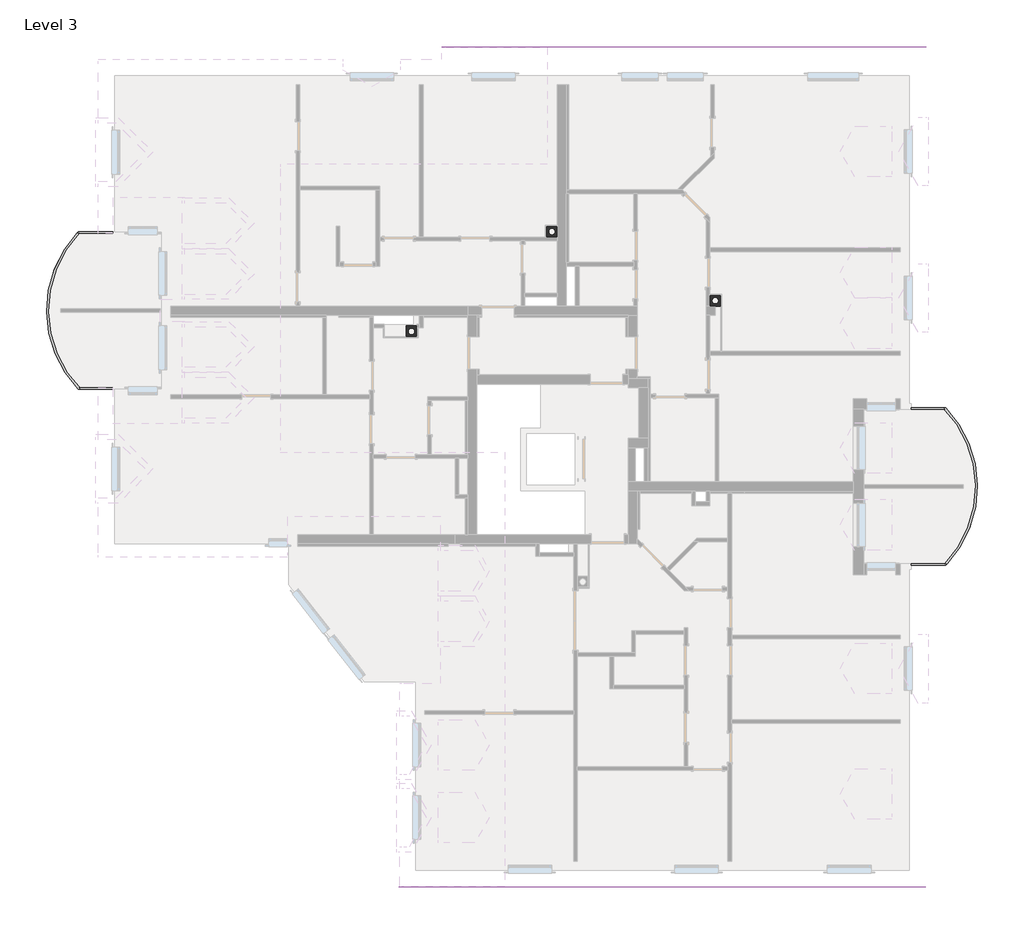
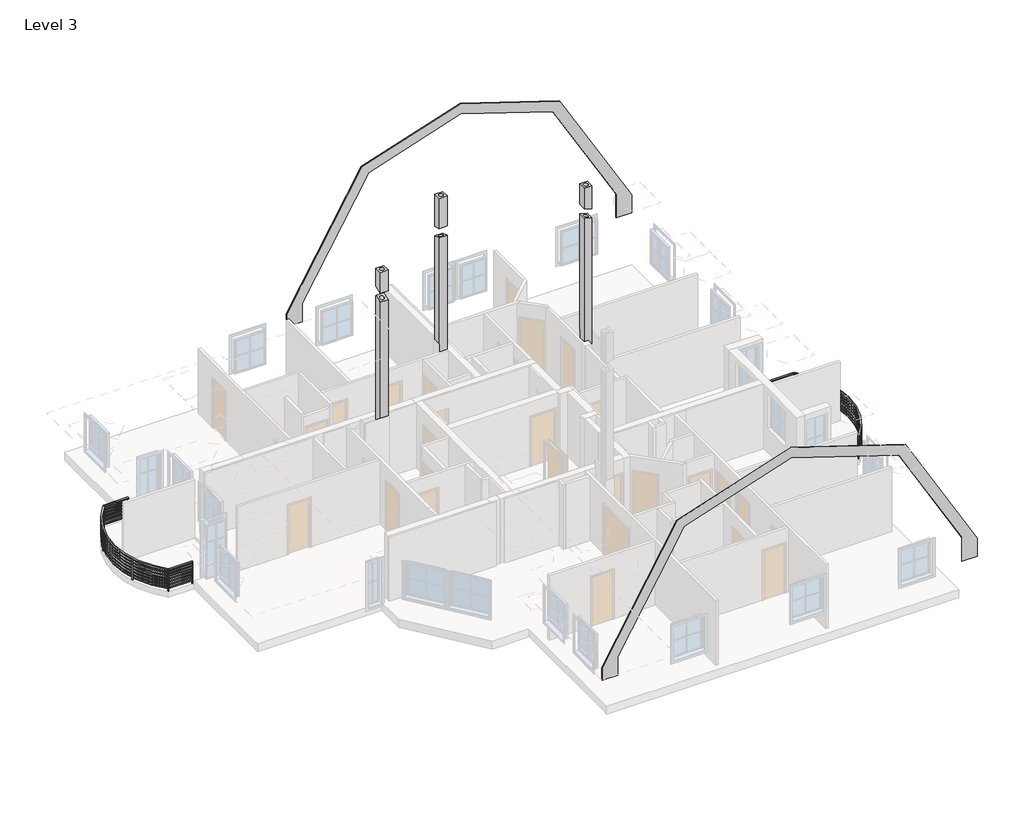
# One storey, part 5 of 5: 3 columns, 3 railings, 2 proxies.
"""IFC4 building model written with IfcOpenShell, lengths in millimetres."""

from ifc_helpers import new_model, si_unit, frame, origin, place, context, project, spatial, polyline, circle_curve, ellipse_curve, transform, mapped, element, save
from ifc_brep_helpers import plane_surface, revolved_surface, advanced_brep
from components import first_first_963d72c4, first2_first2_621e7f1b, railing_900mm_pipe_71d0ca38, railing_900mm_pipe_14a70984, railing_900mm_pipe_290ed59c

model = new_model("IFC4")

# Units and contexts
model_context = context("Model", 3, world=origin())
ifc_project = project(units=[si_unit("LENGTHUNIT", "METRE", prefix="MILLI")], contexts=[model_context])

# Site, building, storey
site = spatial("IfcSite", under=ifc_project)
building = spatial("IfcBuilding", under=site)
storey = spatial("IfcBuildingStorey", under=building, Name="Level 3", Elevation=8850.0)

# Proxies
placement = place(None, origin())
first_first_shape = first_first_963d72c4(model_context)
element("IfcBuildingElementProxy", 1, Name="first : first", ObjectType="first : first", at=placement, inside=storey, context=model_context, shape_type="MappedRepresentation", body=[
    mapped(first_first_shape, transform((0.0, 0.0, 0.0), x_axis=(1.0, 0.0, 0.0), y_axis=(0.0, 1.0, 0.0), z_axis=(0.0, 0.0, 1.0))),
])
first2_first2_shape = first2_first2_621e7f1b(model_context)
element("IfcBuildingElementProxy", 2, Name="first2 : first2", ObjectType="first2 : first2", at=placement, inside=storey, context=model_context, shape_type="MappedRepresentation", body=[
    mapped(first2_first2_shape, transform((0.0, 0.0, 0.0), x_axis=(1.0, 0.0, 0.0), y_axis=(0.0, 1.0, 0.0), z_axis=(0.0, 0.0, 1.0))),
])

# Columns
element("IfcColumn", 3, ObjectType="AT Kamin : 300/300/160", at=placement, inside=storey, context=model_context, shape_type="AdvancedBrep", body=[
    advanced_brep(
    [(-4257.1962165, 3917.6290541, 17750.0), (-4557.1962165, 3917.6290541, 17750.0), (-4557.1962165, 3617.6290541, 17750.0), (-4257.1962165, 3617.6290541, 17750.0), (-4487.1962165, 3767.6290541, 17750.0), (-4327.1962165, 3767.6290541, 17750.0), (-4257.1962165, 3917.6290541, 17005.3753871), (-4541.2600407, 3917.6290541, 17005.3753871), (-4557.1962165, 3917.6290541, 17000.1974097), (-4557.1962165, 3901.6928783, 17000.1974097), (-4557.1962165, 3617.6290541, 16907.8994783), (-4257.1962165, 3617.6290541, 16907.8994783), (-4487.1962165, 3767.6290541, 16956.6374327), (-4327.1962165, 3767.6290541, 16956.6374327)],
    [
        (0, 1),
        (1, 2),
        (2, 3),
        (3, 0),
        (4, 5, circle_curve(frame((-4407.1962165, 3767.6290541, 17750.0), z_axis=(0.0, 0.0, -1.0), x_axis=(1.0, 0.0, 0.0)), 80.0)),
        (5, 4, circle_curve(frame((-4407.1962165, 3767.6290541, 17750.0), z_axis=(0.0, 0.0, -1.0), x_axis=(1.0, 0.0, 0.0)), 80.0)),
        (0, 6),
        (6, 7),
        (7, 8),
        (8, 1),
        (8, 9),
        (9, 10),
        (10, 2),
        (10, 11),
        (11, 3),
        (11, 6),
        (4, 12),
        (12, 13, ellipse_curve(frame((-4407.1962165, 3767.6290541, 16956.6374327), z_axis=(0.0, 0.30901699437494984, -0.9510565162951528), x_axis=(0.0, -0.9510565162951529, -0.30901699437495)), 84.1169779, 80.0)),
        (13, 5),
        (13, 12, ellipse_curve(frame((-4407.1962165, 3767.6290541, 16956.6374327), z_axis=(0.0, 0.30901699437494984, -0.9510565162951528), x_axis=(0.0, -0.9510565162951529, -0.30901699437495)), 84.1169779, 80.0)),
        (7, 9),
    ],
    [
        plane_surface(frame((-4557.1962165, 3917.6290541, 17750.0), z_axis=(0.0, 0.0, 1.0), x_axis=(-1.0, 0.0, 0.0))),
        plane_surface(frame((-4257.1962165, 3917.6290541, 17750.0), z_axis=(0.0, 1.0, 0.0), x_axis=(0.0, 0.0, -1.0))),
        plane_surface(frame((-4557.1962165, 3917.6290541, 17750.0), z_axis=(-1.0, 0.0, 0.0), x_axis=(0.0, 0.0, -1.0))),
        plane_surface(frame((-4557.1962165, 3617.6290541, 17750.0), z_axis=(0.0, -1.0, 0.0), x_axis=(0.0, 0.0, -1.0))),
        plane_surface(frame((-4257.1962165, 3617.6290541, 17750.0), z_axis=(1.0, 0.0, 0.0), x_axis=(0.0, 0.0, -1.0))),
        revolved_surface(polyline([(-4327.1962165, 3767.6290541, 16930.643857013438), (-4327.1962165, 3767.6290541, 17750.0)]), (-4407.1962165, 3767.6290541, 8850.0), (0.0, 0.0, -1.0)),
        plane_surface(frame((-8021.8499172, 8372.0175181, 15874.4631818), z_axis=(0.30901699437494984, 0.0, -0.9510565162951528), x_axis=(0.0, -1.0, 0.0))),
        plane_surface(frame((-8021.8499172, 437.0391776, 15874.4631818), z_axis=(0.0, 0.30901699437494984, -0.9510565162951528), x_axis=(1.0, 0.0, 0.0))),
    ],
    [
        (0, [[1, 2, 3, 4], [5, 6]]),
        (1, [[-1, 7, 8, 9, 10]]),
        (2, [[-2, -10, 11, 12, 13]]),
        (3, [[-3, -13, 14, 15]]),
        (4, [[-4, -15, 16, -7]]),
        (5, [[-5, 17, 18, 19]]),
        (5, [[-6, -19, 20, -17]]),
        (6, [[21, -11, -9]]),
        (7, [[-21, -8, -16, -14, -12], [-18, -20]]),
    ],
),
    advanced_brep(
    [(-4257.1962165, 3917.6290541, 8850.0), (-4257.1962165, 3617.6290541, 8850.0), (-4557.1962165, 3617.6290541, 8850.0), (-4557.1962165, 3917.6290541, 8850.0), (-4487.1962165, 3767.6290541, 8850.0), (-4327.1962165, 3767.6290541, 8850.0), (-4557.1962165, 3901.6928783, 16621.671009), (-4541.2600407, 3917.6290541, 16626.8489864), (-4557.1962165, 3917.6290541, 16621.671009), (-4557.1962165, 3617.6290541, 16529.3730775), (-4257.1962165, 3617.6290541, 16529.3730775), (-4257.1962165, 3917.6290541, 16626.8489864), (-4487.1962165, 3767.6290541, 16578.111032), (-4327.1962165, 3767.6290541, 16578.111032)],
    [
        (0, 1),
        (1, 2),
        (2, 3),
        (3, 0),
        (4, 5, circle_curve(frame((-4407.1962165, 3767.6290541, 8850.0), z_axis=(0.0, 0.0, 1.0), x_axis=(1.0, 0.0, 0.0)), 80.0)),
        (5, 4, circle_curve(frame((-4407.1962165, 3767.6290541, 8850.0), z_axis=(0.0, 0.0, 1.0), x_axis=(1.0, 0.0, 0.0)), 80.0)),
        (6, 7),
        (7, 8),
        (8, 6),
        (6, 9),
        (9, 10),
        (10, 11),
        (11, 7),
        (12, 13, ellipse_curve(frame((-4407.1962165, 3767.6290541, 16578.111032), z_axis=(0.0, 0.30901699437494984, -0.9510565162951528), x_axis=(0.0, -0.9510565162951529, -0.30901699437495)), 84.1169779, 80.0)),
        (13, 12, ellipse_curve(frame((-4407.1962165, 3767.6290541, 16578.111032), z_axis=(0.0, 0.30901699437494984, -0.9510565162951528), x_axis=(0.0, -0.9510565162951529, -0.30901699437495)), 84.1169779, 80.0)),
        (3, 8),
        (11, 0),
        (2, 9),
        (1, 10),
        (5, 13),
        (12, 4),
    ],
    [
        plane_surface(frame((-4557.1962165, 3917.6290541, 8850.0), z_axis=(0.0, 0.0, -1.0), x_axis=(1.0, 0.0, 0.0))),
        plane_surface(frame((-8021.8499172, 8372.0175181, 15495.936781), z_axis=(-0.30901699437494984, 0.0, 0.9510565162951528), x_axis=(0.0, -1.0, 0.0))),
        plane_surface(frame((-8021.8499172, 437.0391776, 15495.936781), z_axis=(0.0, -0.30901699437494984, 0.9510565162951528), x_axis=(1.0, 0.0, 0.0))),
        plane_surface(frame((-4257.1962165, 3917.6290541, 17750.0), z_axis=(0.0, 1.0, 0.0), x_axis=(0.0, 0.0, -1.0))),
        plane_surface(frame((-4557.1962165, 3917.6290541, 17750.0), z_axis=(-1.0, 0.0, 0.0), x_axis=(0.0, 0.0, -1.0))),
        plane_surface(frame((-4557.1962165, 3617.6290541, 17750.0), z_axis=(0.0, -1.0, 0.0), x_axis=(0.0, 0.0, -1.0))),
        plane_surface(frame((-4257.1962165, 3617.6290541, 17750.0), z_axis=(1.0, 0.0, 0.0), x_axis=(0.0, 0.0, -1.0))),
        revolved_surface(polyline([(-4327.1962165, 3767.6290541, 8850.0), (-4327.1962165, 3767.6290541, 16604.104607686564)]), (-4407.1962165, 3767.6290541, 8850.0), (0.0, 0.0, -1.0)),
    ],
    [
        (0, [[1, 2, 3, 4], [5, 6]]),
        (1, [[7, 8, 9]]),
        (2, [[-7, 10, 11, 12, 13], [14, 15]]),
        (3, [[-4, 16, -8, -13, 17]]),
        (4, [[-3, 18, -10, -9, -16]]),
        (5, [[-2, 19, -11, -18]]),
        (6, [[-1, -17, -12, -19]]),
        (7, [[-6, 20, -14, 21]]),
        (7, [[-5, -21, -15, -20]]),
    ],
),
])
element("IfcColumn", 4, ObjectType="AT Kamin : 300/300/160", at=placement, inside=storey, context=model_context, shape_type="AdvancedBrep", body=[
    advanced_brep(
    [(4112.8037835, 4767.6290541, 17750.0), (3812.8037835, 4767.6290541, 17750.0), (3812.8037835, 4467.6290541, 17750.0), (4112.8037835, 4467.6290541, 17750.0), (3882.8037835, 4617.6290541, 17750.0), (4042.8037835, 4617.6290541, 17750.0), (4112.8037835, 4767.6290541, 16807.8848523), (3812.8037835, 4767.6290541, 16905.3607612), (3812.8037835, 4467.6290541, 16905.3607612), (4112.8037835, 4467.6290541, 16807.8848523), (3882.8037835, 4617.6290541, 16882.6163825), (4042.8037835, 4617.6290541, 16830.6292311)],
    [
        (0, 1),
        (1, 2),
        (2, 3),
        (3, 0),
        (4, 5, circle_curve(frame((3962.8037835, 4617.6290541, 17750.0), z_axis=(0.0, 0.0, -1.0), x_axis=(1.0, 0.0, 0.0)), 80.0)),
        (5, 4, circle_curve(frame((3962.8037835, 4617.6290541, 17750.0), z_axis=(0.0, 0.0, -1.0), x_axis=(1.0, 0.0, 0.0)), 80.0)),
        (0, 6),
        (6, 7),
        (7, 1),
        (7, 8),
        (8, 2),
        (8, 9),
        (9, 3),
        (9, 6),
        (4, 10),
        (10, 11, ellipse_curve(frame((3962.8037835, 4617.6290541, 16856.6228068), z_axis=(-0.30901699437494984, 0.0, -0.9510565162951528), x_axis=(0.9510565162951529, 0.0, -0.30901699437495)), 84.1169779, 80.0)),
        (11, 5),
        (11, 10, ellipse_curve(frame((3962.8037835, 4617.6290541, 16856.6228068), z_axis=(-0.30901699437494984, 0.0, -0.9510565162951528), x_axis=(0.9510565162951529, 0.0, -0.30901699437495)), 84.1169779, 80.0)),
    ],
    [
        plane_surface(frame((3812.8037835, 4767.6290541, 17750.0), z_axis=(0.0, 0.0, 1.0), x_axis=(-1.0, 0.0, 0.0))),
        plane_surface(frame((4112.8037835, 4767.6290541, 17750.0), z_axis=(0.0, 1.0, 0.0), x_axis=(0.0, 0.0, -1.0))),
        plane_surface(frame((3812.8037835, 4767.6290541, 17750.0), z_axis=(-1.0, 0.0, 0.0), x_axis=(0.0, 0.0, -1.0))),
        plane_surface(frame((3812.8037835, 4467.6290541, 17750.0), z_axis=(0.0, -1.0, 0.0), x_axis=(0.0, 0.0, -1.0))),
        plane_surface(frame((4112.8037835, 4467.6290541, 17750.0), z_axis=(1.0, 0.0, 0.0), x_axis=(0.0, 0.0, -1.0))),
        revolved_surface(polyline([(4042.8037835, 4617.6290541, 16830.6292311), (4042.8037835, 4617.6290541, 17750.0)]), (3962.8037835, 4617.6290541, 8850.0), (0.0, 0.0, -1.0)),
        plane_surface(frame((6985.5802922, -11532.3709459, 15874.4631818), z_axis=(-0.30901699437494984, 0.0, -0.9510565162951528), x_axis=(0.0, 1.0, 0.0))),
    ],
    [
        (0, [[1, 2, 3, 4], [5, 6]]),
        (1, [[-1, 7, 8, 9]]),
        (2, [[-2, -9, 10, 11]]),
        (3, [[-3, -11, 12, 13]]),
        (4, [[-4, -13, 14, -7]]),
        (5, [[-5, 15, 16, 17]]),
        (5, [[-6, -17, 18, -15]]),
        (6, [[-8, -14, -12, -10], [-16, -18]]),
    ],
),
    advanced_brep(
    [(4112.8037835, 4767.6290541, 8850.0), (4112.8037835, 4467.6290541, 8850.0), (3812.8037835, 4467.6290541, 8850.0), (3812.8037835, 4767.6290541, 8850.0), (3882.8037835, 4617.6290541, 8850.0), (4042.8037835, 4617.6290541, 8850.0), (4112.8037835, 4767.6290541, 16429.3584516), (3812.8037835, 4767.6290541, 16526.8343605), (3812.8037835, 4467.6290541, 16526.8343605), (4112.8037835, 4467.6290541, 16429.3584516), (3882.8037835, 4617.6290541, 16504.0899817), (4042.8037835, 4617.6290541, 16452.1028303)],
    [
        (0, 1),
        (1, 2),
        (2, 3),
        (3, 0),
        (4, 5, circle_curve(frame((3962.8037835, 4617.6290541, 8850.0), z_axis=(0.0, 0.0, 1.0), x_axis=(1.0, 0.0, 0.0)), 80.0)),
        (5, 4, circle_curve(frame((3962.8037835, 4617.6290541, 8850.0), z_axis=(0.0, 0.0, 1.0), x_axis=(1.0, 0.0, 0.0)), 80.0)),
        (6, 7),
        (7, 8),
        (8, 9),
        (9, 6),
        (10, 11, ellipse_curve(frame((3962.8037835, 4617.6290541, 16478.096406), z_axis=(-0.30901699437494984, 0.0, -0.9510565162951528), x_axis=(0.9510565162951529, 0.0, -0.30901699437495)), 84.1169779, 80.0)),
        (11, 10, ellipse_curve(frame((3962.8037835, 4617.6290541, 16478.096406), z_axis=(-0.30901699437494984, 0.0, -0.9510565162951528), x_axis=(0.9510565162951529, 0.0, -0.30901699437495)), 84.1169779, 80.0)),
        (3, 7),
        (6, 0),
        (2, 8),
        (1, 9),
        (5, 11),
        (10, 4),
    ],
    [
        plane_surface(frame((3812.8037835, 4767.6290541, 8850.0), z_axis=(0.0, 0.0, -1.0), x_axis=(1.0, 0.0, 0.0))),
        plane_surface(frame((6985.5802922, -11532.3709459, 15495.936781), z_axis=(0.30901699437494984, 0.0, 0.9510565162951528), x_axis=(0.0, 1.0, 0.0))),
        plane_surface(frame((4112.8037835, 4767.6290541, 17750.0), z_axis=(0.0, 1.0, 0.0), x_axis=(0.0, 0.0, -1.0))),
        plane_surface(frame((3812.8037835, 4767.6290541, 17750.0), z_axis=(-1.0, 0.0, 0.0), x_axis=(0.0, 0.0, -1.0))),
        plane_surface(frame((3812.8037835, 4467.6290541, 17750.0), z_axis=(0.0, -1.0, 0.0), x_axis=(0.0, 0.0, -1.0))),
        plane_surface(frame((4112.8037835, 4467.6290541, 17750.0), z_axis=(1.0, 0.0, 0.0), x_axis=(0.0, 0.0, -1.0))),
        revolved_surface(polyline([(4042.8037835, 4617.6290541, 8850.0), (4042.8037835, 4617.6290541, 16504.0899817)]), (3962.8037835, 4617.6290541, 8850.0), (0.0, 0.0, -1.0)),
    ],
    [
        (0, [[1, 2, 3, 4], [5, 6]]),
        (1, [[7, 8, 9, 10], [11, 12]]),
        (2, [[-4, 13, -7, 14]]),
        (3, [[-3, 15, -8, -13]]),
        (4, [[-2, 16, -9, -15]]),
        (5, [[-1, -14, -10, -16]]),
        (6, [[-6, 17, -11, 18]]),
        (6, [[-5, -18, -12, -17]]),
    ],
),
])
element("IfcColumn", 5, ObjectType="AT Kamin : 300/300/160", at=placement, inside=storey, context=model_context, shape_type="AdvancedBrep", body=[
    advanced_brep(
    [(-387.1962165, 6667.6290541, 17750.0), (-687.1962165, 6667.6290541, 17750.0), (-687.1962165, 6367.6290541, 17750.0), (-387.1962165, 6367.6290541, 17750.0), (-617.1962165, 6517.6290541, 17750.0), (-457.1962165, 6517.6290541, 17750.0), (-387.1962165, 6667.6290541, 16428.2525638), (-687.1962165, 6667.6290541, 16428.2525638), (-687.1962165, 6367.6290541, 16525.7284726), (-387.1962165, 6367.6290541, 16525.7284726), (-617.1962165, 6517.6290541, 16476.9905182), (-457.1962165, 6517.6290541, 16476.9905182)],
    [
        (0, 1),
        (1, 2),
        (2, 3),
        (3, 0),
        (4, 5, circle_curve(frame((-537.1962165, 6517.6290541, 17750.0), z_axis=(0.0, 0.0, -1.0), x_axis=(1.0, 0.0, 0.0)), 80.0)),
        (5, 4, circle_curve(frame((-537.1962165, 6517.6290541, 17750.0), z_axis=(0.0, 0.0, -1.0), x_axis=(1.0, 0.0, 0.0)), 80.0)),
        (0, 6),
        (6, 7),
        (7, 1),
        (7, 8),
        (8, 2),
        (8, 9),
        (9, 3),
        (9, 6),
        (4, 10),
        (10, 11, ellipse_curve(frame((-537.1962165, 6517.6290541, 16476.9905182), z_axis=(0.0, -0.30901699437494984, -0.9510565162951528), x_axis=(0.0, 0.9510565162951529, -0.30901699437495)), 84.1169779, 80.0)),
        (11, 5),
        (11, 10, ellipse_curve(frame((-537.1962165, 6517.6290541, 16476.9905182), z_axis=(0.0, -0.30901699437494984, -0.9510565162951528), x_axis=(0.0, 0.9510565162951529, -0.30901699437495)), 84.1169779, 80.0)),
    ],
    [
        plane_surface(frame((-687.1962165, 6667.6290541, 17750.0), z_axis=(0.0, 0.0, 1.0), x_axis=(-1.0, 0.0, 0.0))),
        plane_surface(frame((-387.1962165, 6667.6290541, 17750.0), z_axis=(0.0, 1.0, 0.0), x_axis=(0.0, 0.0, -1.0))),
        plane_surface(frame((-687.1962165, 6667.6290541, 17750.0), z_axis=(-1.0, 0.0, 0.0), x_axis=(0.0, 0.0, -1.0))),
        plane_surface(frame((-687.1962165, 6367.6290541, 17750.0), z_axis=(0.0, -1.0, 0.0), x_axis=(0.0, 0.0, -1.0))),
        plane_surface(frame((-387.1962165, 6367.6290541, 17750.0), z_axis=(1.0, 0.0, 0.0), x_axis=(0.0, 0.0, -1.0))),
        revolved_surface(polyline([(-457.1962165, 6517.6290541, 16450.996942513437), (-457.1962165, 6517.6290541, 17750.0)]), (-537.1962165, 6517.6290541, 8850.0), (0.0, 0.0, -1.0)),
        plane_surface(frame((-671.5846805, 8372.0175181, 15874.4631818), z_axis=(0.0, -0.30901699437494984, -0.9510565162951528), x_axis=(-1.0, 0.0, 0.0))),
    ],
    [
        (0, [[1, 2, 3, 4], [5, 6]]),
        (1, [[-1, 7, 8, 9]]),
        (2, [[-2, -9, 10, 11]]),
        (3, [[-3, -11, 12, 13]]),
        (4, [[-4, -13, 14, -7]]),
        (5, [[-5, 15, 16, 17]]),
        (5, [[-6, -17, 18, -15]]),
        (6, [[-8, -14, -12, -10], [-16, -18]]),
    ],
),
    advanced_brep(
    [(-387.1962165, 6667.6290541, 8850.0), (-387.1962165, 6367.6290541, 8850.0), (-687.1962165, 6367.6290541, 8850.0), (-687.1962165, 6667.6290541, 8850.0), (-617.1962165, 6517.6290541, 8850.0), (-457.1962165, 6517.6290541, 8850.0), (-387.1962165, 6667.6290541, 16049.726163), (-687.1962165, 6667.6290541, 16049.726163), (-687.1962165, 6367.6290541, 16147.2020719), (-387.1962165, 6367.6290541, 16147.2020719), (-617.1962165, 6517.6290541, 16098.4641175), (-457.1962165, 6517.6290541, 16098.4641175)],
    [
        (0, 1),
        (1, 2),
        (2, 3),
        (3, 0),
        (4, 5, circle_curve(frame((-537.1962165, 6517.6290541, 8850.0), z_axis=(0.0, 0.0, 1.0), x_axis=(1.0, 0.0, 0.0)), 80.0)),
        (5, 4, circle_curve(frame((-537.1962165, 6517.6290541, 8850.0), z_axis=(0.0, 0.0, 1.0), x_axis=(1.0, 0.0, 0.0)), 80.0)),
        (6, 7),
        (7, 8),
        (8, 9),
        (9, 6),
        (10, 11, ellipse_curve(frame((-537.1962165, 6517.6290541, 16098.4641175), z_axis=(0.0, -0.30901699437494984, -0.9510565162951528), x_axis=(0.0, 0.9510565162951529, -0.30901699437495)), 84.1169779, 80.0)),
        (11, 10, ellipse_curve(frame((-537.1962165, 6517.6290541, 16098.4641175), z_axis=(0.0, -0.30901699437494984, -0.9510565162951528), x_axis=(0.0, 0.9510565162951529, -0.30901699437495)), 84.1169779, 80.0)),
        (3, 7),
        (6, 0),
        (2, 8),
        (1, 9),
        (5, 11),
        (10, 4),
    ],
    [
        plane_surface(frame((-687.1962165, 6667.6290541, 8850.0), z_axis=(0.0, 0.0, -1.0), x_axis=(1.0, 0.0, 0.0))),
        plane_surface(frame((-671.5846805, 8372.0175181, 15495.936781), z_axis=(0.0, 0.30901699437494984, 0.9510565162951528), x_axis=(-1.0, 0.0, 0.0))),
        plane_surface(frame((-387.1962165, 6667.6290541, 17750.0), z_axis=(0.0, 1.0, 0.0), x_axis=(0.0, 0.0, -1.0))),
        plane_surface(frame((-687.1962165, 6667.6290541, 17750.0), z_axis=(-1.0, 0.0, 0.0), x_axis=(0.0, 0.0, -1.0))),
        plane_surface(frame((-687.1962165, 6367.6290541, 17750.0), z_axis=(0.0, -1.0, 0.0), x_axis=(0.0, 0.0, -1.0))),
        plane_surface(frame((-387.1962165, 6367.6290541, 17750.0), z_axis=(1.0, 0.0, 0.0), x_axis=(0.0, 0.0, -1.0))),
        revolved_surface(polyline([(-457.1962165, 6517.6290541, 8850.0), (-457.1962165, 6517.6290541, 16124.457693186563)]), (-537.1962165, 6517.6290541, 8850.0), (0.0, 0.0, -1.0)),
    ],
    [
        (0, [[1, 2, 3, 4], [5, 6]]),
        (1, [[7, 8, 9, 10], [11, 12]]),
        (2, [[-4, 13, -7, 14]]),
        (3, [[-3, 15, -8, -13]]),
        (4, [[-2, 16, -9, -15]]),
        (5, [[-1, -14, -10, -16]]),
        (6, [[-6, 17, -11, 18]]),
        (6, [[-5, -18, -12, -17]]),
    ],
),
])

# Railings
railing_900mm_pipe_shape = railing_900mm_pipe_71d0ca38(model_context)
element("IfcRailing", 6, ObjectType="900mm Pipe", at=placement, inside=storey, context=model_context, shape_type="MappedRepresentation", body=[
    mapped(railing_900mm_pipe_shape, transform((0.0, 0.0, 0.0), x_axis=(1.0, 0.0, 0.0), y_axis=(0.0, 1.0, 0.0), z_axis=(0.0, 0.0, 1.0))),
])
railing_900mm_pipe_2_shape = railing_900mm_pipe_14a70984(model_context)
element("IfcRailing", 7, ObjectType="900mm Pipe", at=placement, inside=storey, context=model_context, shape_type="MappedRepresentation", body=[
    mapped(railing_900mm_pipe_2_shape, transform((0.0, 0.0, 0.0), x_axis=(1.0, 0.0, 0.0), y_axis=(0.0, 1.0, 0.0), z_axis=(0.0, 0.0, 1.0))),
])
railing_900mm_pipe_3_shape = railing_900mm_pipe_290ed59c(model_context)
element("IfcRailing", 8, ObjectType="900mm Pipe", at=placement, inside=storey, context=model_context, shape_type="MappedRepresentation", body=[
    mapped(railing_900mm_pipe_3_shape, transform((0.0, 0.0, 0.0), x_axis=(1.0, 0.0, 0.0), y_axis=(0.0, 1.0, 0.0), z_axis=(0.0, 0.0, 1.0))),
])

save(model, "model.ifc")
